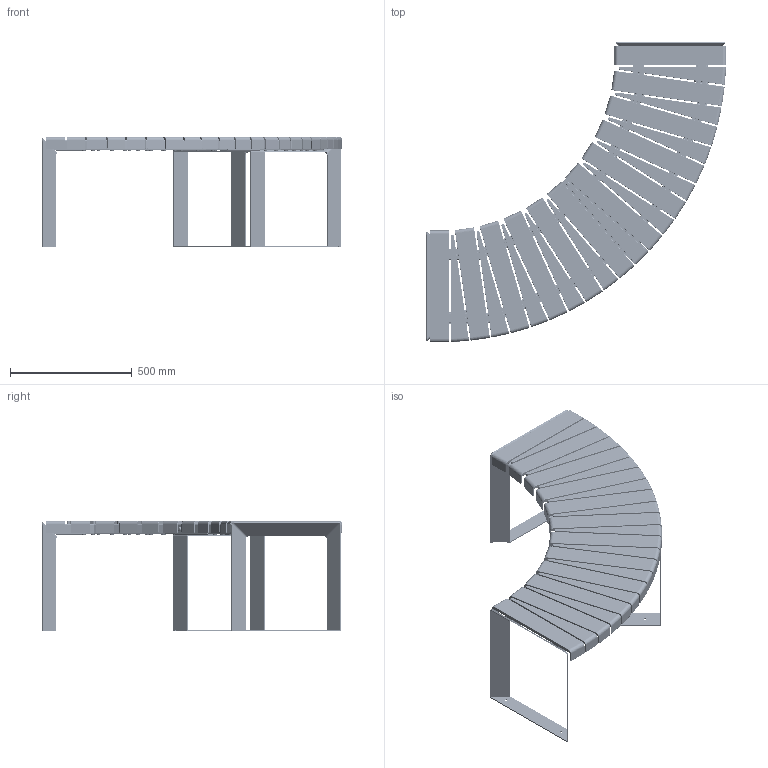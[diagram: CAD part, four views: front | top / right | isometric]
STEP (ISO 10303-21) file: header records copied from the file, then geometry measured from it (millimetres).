
FILE_DESCRIPTION(('STEP AP203'),'1');
FILE_NAME('UT80PC1200AXX + FIANCHI.stp','2026-01-19T08:10:58',(' '),(' '),'Spatial InterOp 3D',' ',' ');
FILE_SCHEMA(('CONFIG_CONTROL_DESIGN'));
Length unit declared in the file: millimetre
Products named in the file (1): UT80PC1200AXX + FIANCHI
Bounding box: 1236.59 x 1236.58 x 454 mm (x, y, z)
Surface area: 3719634.1 mm2 (no closed solid volume)
Topology: 0 solids, 513 shells, 4340 faces, 19940 edges, 15804 vertices
Faces by surface type: plane 1819, cylinder 1520, torus 609, bspline 341, cone 44, extrusion 7
Full cylindrical faces by diameter (mm): 6.8 x12, 8 x4, 10 x6, 13 x12, 17.5 x40, 17.8 x12, 19 x2
Entity records: 256571 total; most frequent: CARTESIAN_POINT 105482, DIRECTION 28923, ORIENTED_EDGE 27284, EDGE_CURVE 19648, VERTEX_POINT 15780, VECTOR 11961, LINE 11954, AXIS2_PLACEMENT_3D 8481
